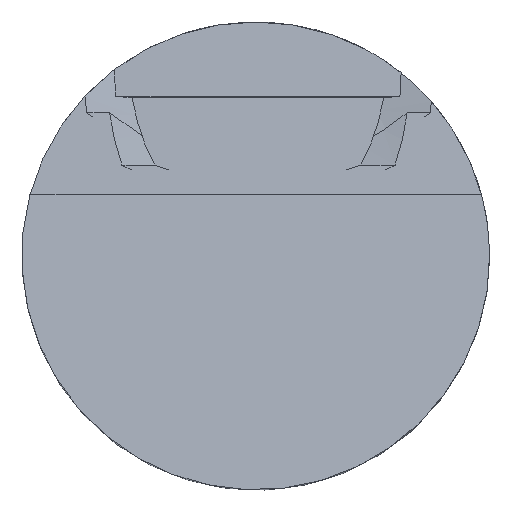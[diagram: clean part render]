
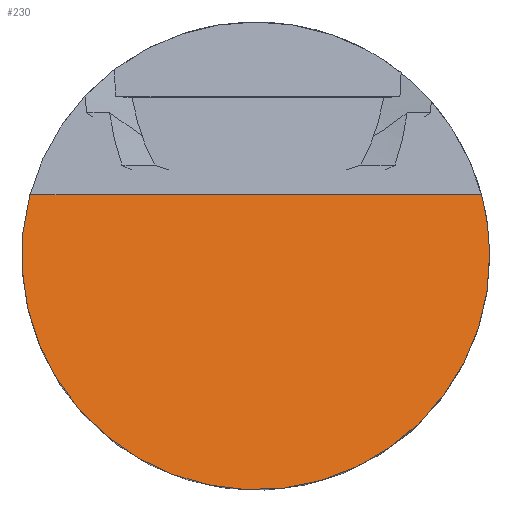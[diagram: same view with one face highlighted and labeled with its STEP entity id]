
A CAD part, top view. The second image highlights one B-rep face of the part: STEP entity #230.
In plain terms, the highlighted planar face has unit normal (0, 0.225, 0.974).
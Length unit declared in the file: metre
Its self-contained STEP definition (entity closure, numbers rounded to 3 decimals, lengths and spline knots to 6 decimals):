
#33=LINE('',#494,#42);
#42=VECTOR('',#316,1.);
#73=ORIENTED_EDGE('',*,*,#127,.T.);
#74=ORIENTED_EDGE('',*,*,#137,.T.);
#127=EDGE_CURVE('',#160,#159,#179,.T.);
#137=EDGE_CURVE('',#159,#160,#33,.T.);
#159=VERTEX_POINT('',#383);
#160=VERTEX_POINT('',#385);
#179=ELLIPSE('',#260,0.035809,0.034891);
#192=EDGE_LOOP('',(#73,#74));
#207=FACE_BOUND('',#192,.T.);
#218=PLANE('',#267);
#230=ADVANCED_FACE('',(#207),#218,.T.);
#260=AXIS2_PLACEMENT_3D('',#384,#300,#301);
#267=AXIS2_PLACEMENT_3D('',#493,#314,#315);
#300=DIRECTION('',(0.,0.225,0.974));
#301=DIRECTION('',(0.,0.974,-0.225));
#314=DIRECTION('',(0.,0.225,0.974));
#315=DIRECTION('',(-1.,0.,0.));
#316=DIRECTION('',(-1.,0.,0.));
#383=CARTESIAN_POINT('',(-0.101863,-0.047537,-0.042668));
#384=CARTESIAN_POINT('',(-0.135536,-0.056675,-0.040558));
#385=CARTESIAN_POINT('',(-0.16921,-0.047537,-0.042668));
#493=CARTESIAN_POINT('',(-0.137867,-0.112154,-0.02775));
#494=CARTESIAN_POINT('',(-0.182867,-0.047537,-0.042668));
